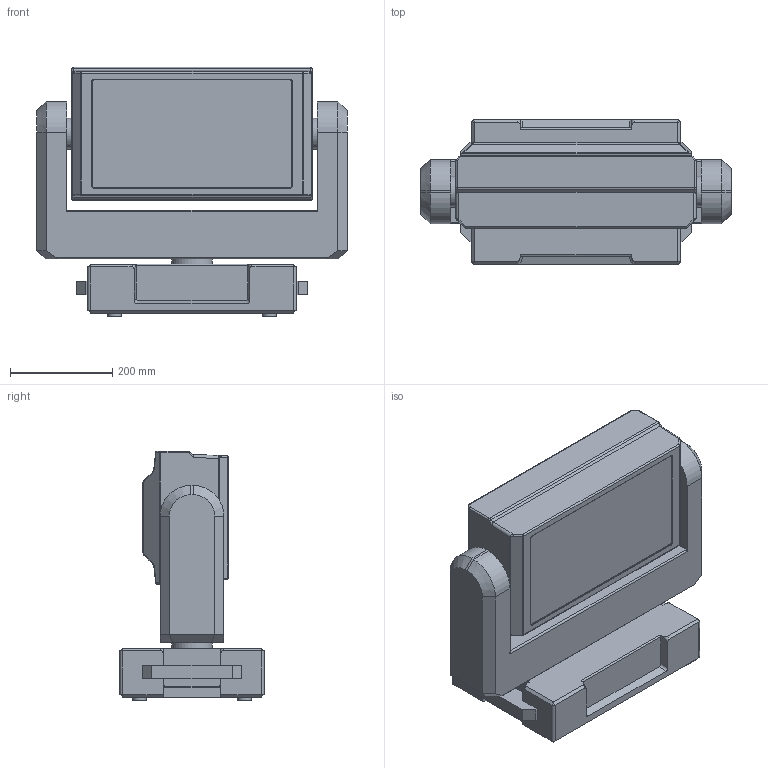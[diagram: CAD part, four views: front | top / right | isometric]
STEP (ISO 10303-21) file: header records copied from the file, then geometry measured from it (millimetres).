
FILE_DESCRIPTION(/* description */ ('Unknown'),/* implementation_level */ '2;1');
FILE_NAME(/* name */ 'Robin iStrobe',/* time_stamp */ '2025-01-13T09:51:30+01:00',/* author */ ('Unknown'),/* organization */ ('Unknown'),/* preprocessor_version */ 'ST-DEVELOPER v19.4',/* originating_system */ 'Solid Edge',/* authorisation */ 'Unknown');
FILE_SCHEMA (('AUTOMOTIVE_DESIGN {1 0 10303 214 3 1 1}'));
Length unit declared in the file: millimetre
Products named in the file (4): Robin iStrobe; Robin iStrobe základna; Robin iStrobe rameno; Robin iStrobe hlava
Assembly tree (3 placements, depth 2):
  Robin iStrobe
    Robin iStrobe základna
    Robin iStrobe rameno
    Robin iStrobe hlava
Bounding box: 607 x 282 x 488 mm (x, y, z)
Volume: 38875312.2 mm3; surface area: 1247801.8 mm2
Topology: 3 solids, 3 shells, 251 faces, 619 edges, 362 vertices
Faces by surface type: plane 116, cylinder 87, cone 16, bspline 12, sphere 12, torus 8
Full cylindrical faces by diameter (mm): 26.889 x4, 60 x2, 80 x1
Entity records: 7294 total; most frequent: CARTESIAN_POINT 1381, DIRECTION 1264, ORIENTED_EDGE 1168, EDGE_CURVE 584, AXIS2_PLACEMENT_3D 441, LINE 382, VECTOR 382, VERTEX_POINT 358
